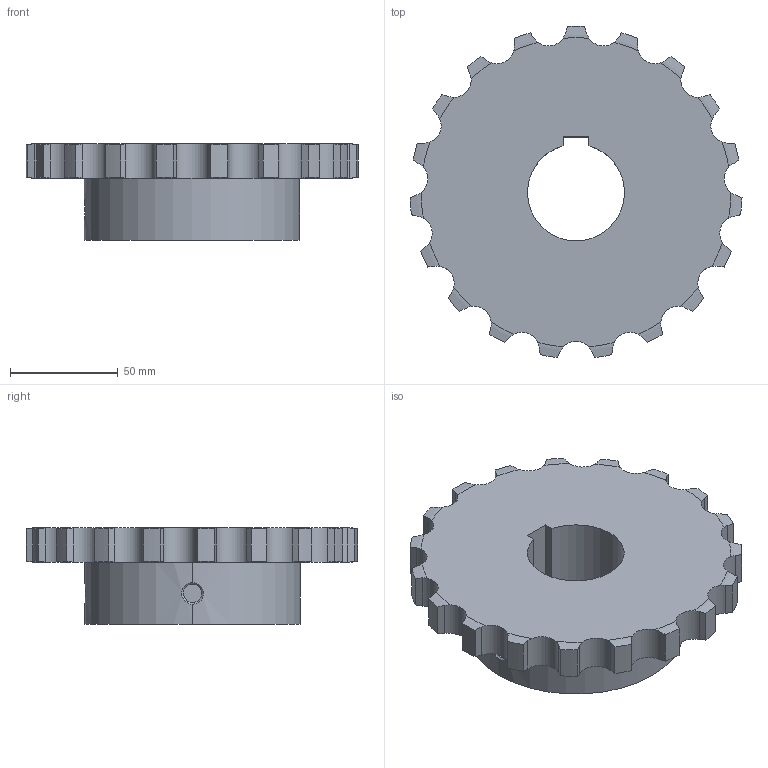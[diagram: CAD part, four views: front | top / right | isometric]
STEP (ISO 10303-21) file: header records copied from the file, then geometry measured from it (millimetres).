
FILE_DESCRIPTION((''),'2;1');
FILE_NAME('510-501-4519_PRT','2021-02-13T',('Brieden'),('Brieden'),'PRO/ENGINEER BY PARAMETRIC TECHNOLOGY CORPORATION, 2010160','PRO/ENGINEER BY PARAMETRIC TECHNOLOGY CORPORATION, 2010160','');
FILE_SCHEMA(('AUTOMOTIVE_DESIGN { 1 0 10303 214 1 1 1 1 }'));
Length unit declared in the file: millimetre
Products named in the file (1): 510-501-4519_PRT
Bounding box: 154.26 x 153.82 x 45 mm (x, y, z)
Volume: 422936.5 mm3; surface area: 56628.6 mm2
Topology: 1 solids, 1 shells, 135 faces, 387 edges, 256 vertices
Faces by surface type: cylinder 83, torus 38, plane 8, bspline 6
Entity records: 6732 total; most frequent: CARTESIAN_POINT 2187, ORIENTED_EDGE 774, DIRECTION 605, PRESENTATION_STYLE_ASSIGNMENT 388, STYLED_ITEM 388, CURVE_STYLE 387, EDGE_CURVE 387, VERTEX_POINT 256
